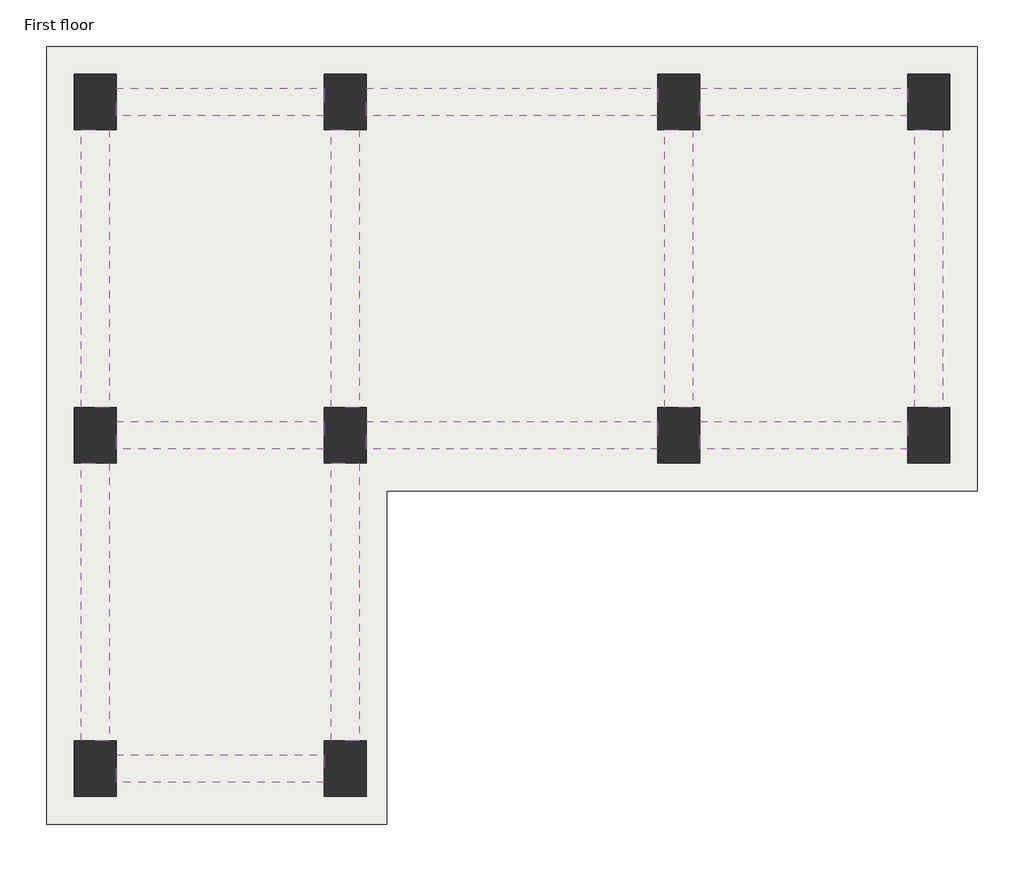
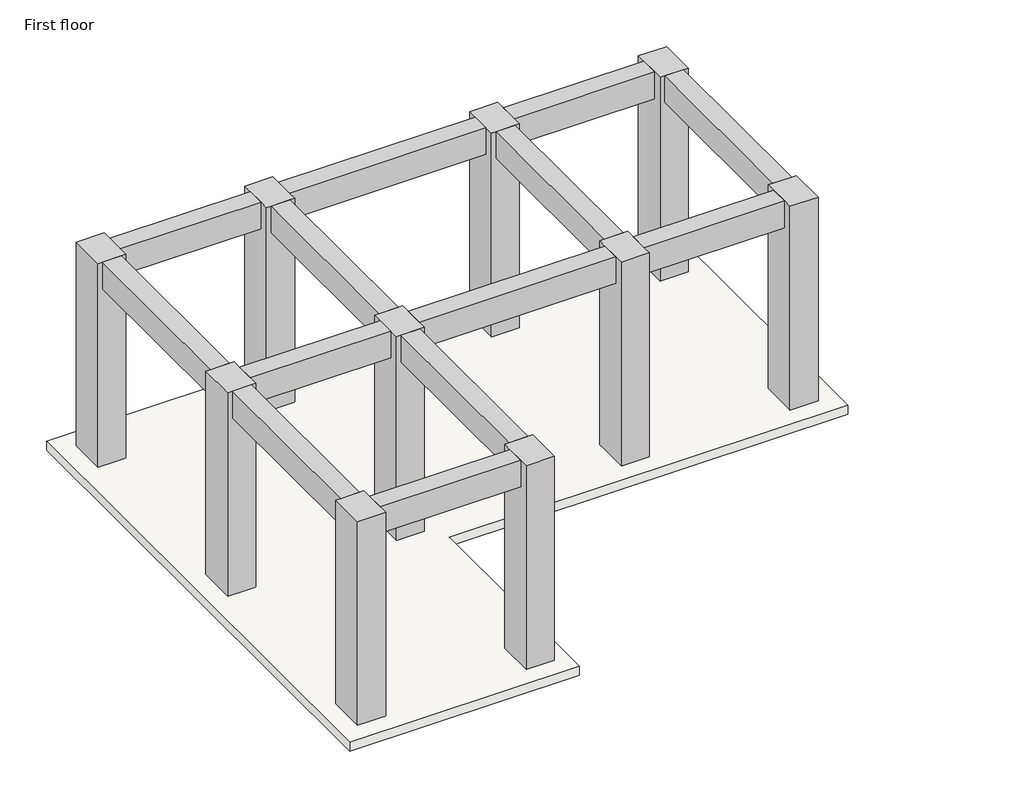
# One storey: 13 beams, 10 columns, 1 slab.
"""IFC4 building model written with IfcOpenShell, lengths in millimetres."""

from ifc_helpers import new_model, si_unit, frame, origin, place, context, project, spatial, polyline, outline, extrude, faceted_brep, element, save

model = new_model("IFC4")

# Units and contexts
model_context = context("Model", 3, world=origin())
ifc_project = project(units=[si_unit("LENGTHUNIT", "METRE", prefix="MILLI")], contexts=[model_context])

# Site, building, storey
site = spatial("IfcSite", under=ifc_project)
building = spatial("IfcBuilding", under=site)
storey = spatial("IfcBuildingStorey", under=building, Name="First floor", Elevation=6096.0)

# Beams
placement = place(None, origin())
element("IfcBeam", 1, ObjectType="Concrete-Rectangular Beam : 12 x 24", at=placement, inside=storey, context=model_context, shape_type="SweptSolid", body=[
    extrude(outline(polyline([(-23084.018666, 15705.8753347), (-23084.018666, 16010.6753347), (-20798.018666, 16010.6753347), (-20798.018666, 15705.8753347), (-23084.018666, 15705.8753347)])), frame((0.0, 0.0, 9144.0), z_axis=(0.0, 0.0, 1.0), x_axis=(1.0, 0.0, 0.0)), (0.0, 0.0, 1.0), 457.2),
])
element("IfcBeam", 2, ObjectType="Concrete-Rectangular Beam : 12 x 24", at=placement, inside=storey, context=model_context, shape_type="SweptSolid", body=[
    extrude(outline(polyline([(-20340.818666, 15705.8753347), (-20340.818666, 16010.6753347), (-17140.418666, 16010.6753347), (-17140.418666, 15705.8753347), (-20340.818666, 15705.8753347)])), frame((0.0, 0.0, 9144.0), z_axis=(0.0, 0.0, 1.0), x_axis=(1.0, 0.0, 0.0)), (0.0, 0.0, 1.0), 457.2),
])
element("IfcBeam", 3, ObjectType="Concrete-Rectangular Beam : 12 x 24", at=placement, inside=storey, context=model_context, shape_type="SweptSolid", body=[
    extrude(outline(polyline([(-16683.218666, 15705.8753347), (-16683.218666, 16010.6753347), (-14397.218666, 16010.6753347), (-14397.218666, 15705.8753347), (-16683.218666, 15705.8753347)])), frame((0.0, 0.0, 9144.0), z_axis=(0.0, 0.0, 1.0), x_axis=(1.0, 0.0, 0.0)), (0.0, 0.0, 1.0), 457.2),
])
element("IfcBeam", 4, ObjectType="Concrete-Rectangular Beam : 12 x 24", at=placement, inside=storey, context=model_context, shape_type="SweptSolid", body=[
    extrude(outline(polyline([(-14321.018666, 15553.4753347), (-14016.218666, 15553.4753347), (-14016.218666, 12505.4753347), (-14321.018666, 12505.4753347), (-14321.018666, 15553.4753347)])), frame((0.0, 0.0, 9144.0), z_axis=(0.0, 0.0, 1.0), x_axis=(1.0, 0.0, 0.0)), (0.0, 0.0, 1.0), 457.2),
])
element("IfcBeam", 5, ObjectType="Concrete-Rectangular Beam : 12 x 24", at=placement, inside=storey, context=model_context, shape_type="SweptSolid", body=[
    extrude(outline(polyline([(-16683.218666, 12048.2753347), (-16683.218666, 12353.0753347), (-14397.218666, 12353.0753347), (-14397.218666, 12048.2753347), (-16683.218666, 12048.2753347)])), frame((0.0, 0.0, 9144.0), z_axis=(0.0, 0.0, 1.0), x_axis=(1.0, 0.0, 0.0)), (0.0, 0.0, 1.0), 457.2),
])
element("IfcBeam", 6, ObjectType="Concrete-Rectangular Beam : 12 x 24", at=placement, inside=storey, context=model_context, shape_type="SweptSolid", body=[
    extrude(outline(polyline([(-20340.818666, 12048.2753347), (-20340.818666, 12353.0753347), (-17140.418666, 12353.0753347), (-17140.418666, 12048.2753347), (-20340.818666, 12048.2753347)])), frame((0.0, 0.0, 9144.0), z_axis=(0.0, 0.0, 1.0), x_axis=(1.0, 0.0, 0.0)), (0.0, 0.0, 1.0), 457.2),
])
element("IfcBeam", 7, ObjectType="Concrete-Rectangular Beam : 12 x 24", at=placement, inside=storey, context=model_context, shape_type="SweptSolid", body=[
    extrude(outline(polyline([(-20721.818666, 11895.8753347), (-20417.018666, 11895.8753347), (-20417.018666, 8847.8753347), (-20721.818666, 8847.8753347), (-20721.818666, 11895.8753347)])), frame((0.0, 0.0, 9144.0), z_axis=(0.0, 0.0, 1.0), x_axis=(1.0, 0.0, 0.0)), (0.0, 0.0, 1.0), 457.2),
])
element("IfcBeam", 8, ObjectType="Concrete-Rectangular Beam : 12 x 24", at=placement, inside=storey, context=model_context, shape_type="SweptSolid", body=[
    extrude(outline(polyline([(-23084.018666, 8390.6753347), (-23084.018666, 8695.4753347), (-20798.018666, 8695.4753347), (-20798.018666, 8390.6753347), (-23084.018666, 8390.6753347)])), frame((0.0, 0.0, 9144.0), z_axis=(0.0, 0.0, 1.0), x_axis=(1.0, 0.0, 0.0)), (0.0, 0.0, 1.0), 457.2),
])
element("IfcBeam", 9, ObjectType="Concrete-Rectangular Beam : 12 x 24", at=placement, inside=storey, context=model_context, shape_type="SweptSolid", body=[
    extrude(outline(polyline([(-23465.018666, 11895.8753347), (-23160.218666, 11895.8753347), (-23160.218666, 8847.8753347), (-23465.018666, 8847.8753347), (-23465.018666, 11895.8753347)])), frame((0.0, 0.0, 9144.0), z_axis=(0.0, 0.0, 1.0), x_axis=(1.0, 0.0, 0.0)), (0.0, 0.0, 1.0), 457.2),
])
element("IfcBeam", 10, ObjectType="Concrete-Rectangular Beam : 12 x 24", at=placement, inside=storey, context=model_context, shape_type="SweptSolid", body=[
    extrude(outline(polyline([(-23465.018666, 15553.4753347), (-23160.218666, 15553.4753347), (-23160.218666, 12505.4753347), (-23465.018666, 12505.4753347), (-23465.018666, 15553.4753347)])), frame((0.0, 0.0, 9144.0), z_axis=(0.0, 0.0, 1.0), x_axis=(1.0, 0.0, 0.0)), (0.0, 0.0, 1.0), 457.2),
])
element("IfcBeam", 11, ObjectType="Concrete-Rectangular Beam : 12 x 24", at=placement, inside=storey, context=model_context, shape_type="SweptSolid", body=[
    extrude(outline(polyline([(-20721.818666, 15553.4753347), (-20417.018666, 15553.4753347), (-20417.018666, 12505.4753347), (-20721.818666, 12505.4753347), (-20721.818666, 15553.4753347)])), frame((0.0, 0.0, 9144.0), z_axis=(0.0, 0.0, 1.0), x_axis=(1.0, 0.0, 0.0)), (0.0, 0.0, 1.0), 457.2),
])
element("IfcBeam", 12, ObjectType="Concrete-Rectangular Beam : 12 x 24", at=placement, inside=storey, context=model_context, shape_type="SweptSolid", body=[
    extrude(outline(polyline([(-23084.018666, 12048.2753347), (-23084.018666, 12353.0753347), (-20798.018666, 12353.0753347), (-20798.018666, 12048.2753347), (-23084.018666, 12048.2753347)])), frame((0.0, 0.0, 9144.0), z_axis=(0.0, 0.0, 1.0), x_axis=(1.0, 0.0, 0.0)), (0.0, 0.0, 1.0), 457.2),
])
element("IfcBeam", 13, ObjectType="Concrete-Rectangular Beam : 12 x 24", at=placement, inside=storey, context=model_context, shape_type="SweptSolid", body=[
    extrude(outline(polyline([(-17064.218666, 15553.4753347), (-16759.418666, 15553.4753347), (-16759.418666, 12505.4753347), (-17064.218666, 12505.4753347), (-17064.218666, 15553.4753347)])), frame((0.0, 0.0, 9144.0), z_axis=(0.0, 0.0, 1.0), x_axis=(1.0, 0.0, 0.0)), (0.0, 0.0, 1.0), 457.2),
])

# Columns
element("IfcColumn", 14, ObjectType="Concrete-Rectangular-Column : 18 x 24", at=placement, inside=storey, context=model_context, shape_type="Brep", body=[
    faceted_brep([(-23084.018666, 16163.0753347, 6096.0), (-23084.018666, 15553.4753347, 6096.0), (-23541.218666, 15553.4753347, 6096.0), (-23541.218666, 16163.0753347, 6096.0), (-23084.018666, 16163.0753347, 9601.2), (-23084.018666, 16010.6753347, 9601.2), (-23084.018666, 15705.8753347, 9601.2), (-23084.018666, 15553.4753347, 9601.2), (-23160.218666, 15553.4753347, 9601.2), (-23465.018666, 15553.4753347, 9601.2), (-23541.218666, 15553.4753347, 9601.2), (-23541.218666, 16163.0753347, 9601.2)], [[[0, 1, 2, 3]], [[1, 0, 4, 5, 6, 7]], [[2, 1, 7, 8, 9, 10]], [[3, 2, 10, 11]], [[0, 3, 11, 4]], [[7, 6, 5, 4, 11, 10, 9, 8]]]),
])
element("IfcColumn", 15, ObjectType="Concrete-Rectangular-Column : 18 x 24", at=placement, inside=storey, context=model_context, shape_type="Brep", body=[
    faceted_brep([(-20340.818666, 16163.0753347, 6096.0), (-20340.818666, 15553.4753347, 6096.0), (-20798.018666, 15553.4753347, 6096.0), (-20798.018666, 16163.0753347, 6096.0), (-20340.818666, 16163.0753347, 9601.2), (-20340.818666, 16010.6753347, 9601.2), (-20340.818666, 15705.8753347, 9601.2), (-20340.818666, 15553.4753347, 9601.2), (-20417.018666, 15553.4753347, 9601.2), (-20721.818666, 15553.4753347, 9601.2), (-20798.018666, 15553.4753347, 9601.2), (-20798.018666, 15705.8753347, 9601.2), (-20798.018666, 16010.6753347, 9601.2), (-20798.018666, 16163.0753347, 9601.2)], [[[0, 1, 2, 3]], [[1, 0, 4, 5, 6, 7]], [[2, 1, 7, 8, 9, 10]], [[3, 2, 10, 11, 12, 13]], [[0, 3, 13, 4]], [[7, 6, 5, 4, 13, 12, 11, 10, 9, 8]]]),
])
element("IfcColumn", 16, ObjectType="Concrete-Rectangular-Column : 18 x 24", at=placement, inside=storey, context=model_context, shape_type="Brep", body=[
    faceted_brep([(-16683.218666, 16163.0753347, 6096.0), (-16683.218666, 15553.4753347, 6096.0), (-17140.418666, 15553.4753347, 6096.0), (-17140.418666, 16163.0753347, 6096.0), (-16683.218666, 16163.0753347, 9601.2), (-16683.218666, 16010.6753347, 9601.2), (-16683.218666, 15705.8753347, 9601.2), (-16683.218666, 15553.4753347, 9601.2), (-16759.418666, 15553.4753347, 9601.2), (-17064.218666, 15553.4753347, 9601.2), (-17140.418666, 15553.4753347, 9601.2), (-17140.418666, 15705.8753347, 9601.2), (-17140.418666, 16010.6753347, 9601.2), (-17140.418666, 16163.0753347, 9601.2)], [[[0, 1, 2, 3]], [[1, 0, 4, 5, 6, 7]], [[2, 1, 7, 8, 9, 10]], [[3, 2, 10, 11, 12, 13]], [[0, 3, 13, 4]], [[7, 6, 5, 4, 13, 12, 11, 10, 9, 8]]]),
])
element("IfcColumn", 17, ObjectType="Concrete-Rectangular-Column : 18 x 24", at=placement, inside=storey, context=model_context, shape_type="Brep", body=[
    faceted_brep([(-13940.018666, 16163.0753347, 6096.0), (-13940.018666, 15553.4753347, 6096.0), (-14397.218666, 15553.4753347, 6096.0), (-14397.218666, 16163.0753347, 6096.0), (-13940.018666, 16163.0753347, 9601.2), (-13940.018666, 15553.4753347, 9601.2), (-14016.218666, 15553.4753347, 9601.2), (-14321.018666, 15553.4753347, 9601.2), (-14397.218666, 15553.4753347, 9601.2), (-14397.218666, 15705.8753347, 9601.2), (-14397.218666, 16010.6753347, 9601.2), (-14397.218666, 16163.0753347, 9601.2)], [[[0, 1, 2, 3]], [[1, 0, 4, 5]], [[2, 1, 5, 6, 7, 8]], [[3, 2, 8, 9, 10, 11]], [[0, 3, 11, 4]], [[5, 4, 11, 10, 9, 8, 7, 6]]]),
])
element("IfcColumn", 18, ObjectType="Concrete-Rectangular-Column : 18 x 24", at=placement, inside=storey, context=model_context, shape_type="Brep", body=[
    faceted_brep([(-23084.018666, 12505.4753347, 6096.0), (-23084.018666, 11895.8753347, 6096.0), (-23541.218666, 11895.8753347, 6096.0), (-23541.218666, 12505.4753347, 6096.0), (-23084.018666, 12505.4753347, 9601.2), (-23084.018666, 12353.0753347, 9601.2), (-23084.018666, 12048.2753347, 9601.2), (-23084.018666, 11895.8753347, 9601.2), (-23160.218666, 11895.8753347, 9601.2), (-23465.018666, 11895.8753347, 9601.2), (-23541.218666, 11895.8753347, 9601.2), (-23541.218666, 12505.4753347, 9601.2), (-23465.018666, 12505.4753347, 9601.2), (-23160.218666, 12505.4753347, 9601.2)], [[[0, 1, 2, 3]], [[1, 0, 4, 5, 6, 7]], [[2, 1, 7, 8, 9, 10]], [[3, 2, 10, 11]], [[0, 3, 11, 12, 13, 4]], [[7, 6, 5, 4, 13, 12, 11, 10, 9, 8]]]),
])
element("IfcColumn", 19, ObjectType="Concrete-Rectangular-Column : 18 x 24", at=placement, inside=storey, context=model_context, shape_type="Brep", body=[
    faceted_brep([(-20340.818666, 12505.4753347, 6096.0), (-20340.818666, 11895.8753347, 6096.0), (-20798.018666, 11895.8753347, 6096.0), (-20798.018666, 12505.4753347, 6096.0), (-20340.818666, 12505.4753347, 9601.2), (-20340.818666, 12353.0753347, 9601.2), (-20340.818666, 12048.2753347, 9601.2), (-20340.818666, 11895.8753347, 9601.2), (-20417.018666, 11895.8753347, 9601.2), (-20721.818666, 11895.8753347, 9601.2), (-20798.018666, 11895.8753347, 9601.2), (-20798.018666, 12048.2753347, 9601.2), (-20798.018666, 12353.0753347, 9601.2), (-20798.018666, 12505.4753347, 9601.2), (-20721.818666, 12505.4753347, 9601.2), (-20417.018666, 12505.4753347, 9601.2)], [[[0, 1, 2, 3]], [[1, 0, 4, 5, 6, 7]], [[2, 1, 7, 8, 9, 10]], [[3, 2, 10, 11, 12, 13]], [[0, 3, 13, 14, 15, 4]], [[7, 6, 5, 4, 15, 14, 13, 12, 11, 10, 9, 8]]]),
])
element("IfcColumn", 20, ObjectType="Concrete-Rectangular-Column : 18 x 24", at=placement, inside=storey, context=model_context, shape_type="Brep", body=[
    faceted_brep([(-16683.218666, 12505.4753347, 6096.0), (-16683.218666, 11895.8753347, 6096.0), (-17140.418666, 11895.8753347, 6096.0), (-17140.418666, 12505.4753347, 6096.0), (-16683.218666, 12505.4753347, 9601.2), (-16683.218666, 12353.0753347, 9601.2), (-16683.218666, 12048.2753347, 9601.2), (-16683.218666, 11895.8753347, 9601.2), (-17140.418666, 11895.8753347, 9601.2), (-17140.418666, 12048.2753347, 9601.2), (-17140.418666, 12353.0753347, 9601.2), (-17140.418666, 12505.4753347, 9601.2), (-17064.218666, 12505.4753347, 9601.2), (-16759.418666, 12505.4753347, 9601.2)], [[[0, 1, 2, 3]], [[1, 0, 4, 5, 6, 7]], [[2, 1, 7, 8]], [[3, 2, 8, 9, 10, 11]], [[0, 3, 11, 12, 13, 4]], [[7, 6, 5, 4, 13, 12, 11, 10, 9, 8]]]),
])
element("IfcColumn", 21, ObjectType="Concrete-Rectangular-Column : 18 x 24", at=placement, inside=storey, context=model_context, shape_type="Brep", body=[
    faceted_brep([(-13940.018666, 12505.4753347, 6096.0), (-13940.018666, 11895.8753347, 6096.0), (-14397.218666, 11895.8753347, 6096.0), (-14397.218666, 12505.4753347, 6096.0), (-13940.018666, 12505.4753347, 9601.2), (-13940.018666, 11895.8753347, 9601.2), (-14397.218666, 11895.8753347, 9601.2), (-14397.218666, 12048.2753347, 9601.2), (-14397.218666, 12353.0753347, 9601.2), (-14397.218666, 12505.4753347, 9601.2), (-14321.018666, 12505.4753347, 9601.2), (-14016.218666, 12505.4753347, 9601.2)], [[[0, 1, 2, 3]], [[1, 0, 4, 5]], [[2, 1, 5, 6]], [[3, 2, 6, 7, 8, 9]], [[0, 3, 9, 10, 11, 4]], [[5, 4, 11, 10, 9, 8, 7, 6]]]),
])
element("IfcColumn", 22, ObjectType="Concrete-Rectangular-Column : 18 x 24", at=placement, inside=storey, context=model_context, shape_type="Brep", body=[
    faceted_brep([(-23084.018666, 8847.8753347, 6096.0), (-23084.018666, 8238.2753347, 6096.0), (-23541.218666, 8238.2753347, 6096.0), (-23541.218666, 8847.8753347, 6096.0), (-23084.018666, 8847.8753347, 9601.2), (-23084.018666, 8695.4753347, 9601.2), (-23084.018666, 8390.6753347, 9601.2), (-23084.018666, 8238.2753347, 9601.2), (-23541.218666, 8238.2753347, 9601.2), (-23541.218666, 8847.8753347, 9601.2), (-23465.018666, 8847.8753347, 9601.2), (-23160.218666, 8847.8753347, 9601.2)], [[[0, 1, 2, 3]], [[1, 0, 4, 5, 6, 7]], [[2, 1, 7, 8]], [[3, 2, 8, 9]], [[0, 3, 9, 10, 11, 4]], [[7, 6, 5, 4, 11, 10, 9, 8]]]),
])
element("IfcColumn", 23, ObjectType="Concrete-Rectangular-Column : 18 x 24", at=placement, inside=storey, context=model_context, shape_type="Brep", body=[
    faceted_brep([(-20340.818666, 8847.8753347, 6096.0), (-20340.818666, 8238.2753347, 6096.0), (-20798.018666, 8238.2753347, 6096.0), (-20798.018666, 8847.8753347, 6096.0), (-20340.818666, 8847.8753347, 9601.2), (-20340.818666, 8238.2753347, 9601.2), (-20798.018666, 8238.2753347, 9601.2), (-20798.018666, 8390.6753347, 9601.2), (-20798.018666, 8695.4753347, 9601.2), (-20798.018666, 8847.8753347, 9601.2), (-20721.818666, 8847.8753347, 9601.2), (-20417.018666, 8847.8753347, 9601.2)], [[[0, 1, 2, 3]], [[1, 0, 4, 5]], [[2, 1, 5, 6]], [[3, 2, 6, 7, 8, 9]], [[0, 3, 9, 10, 11, 4]], [[5, 4, 11, 10, 9, 8, 7, 6]]]),
])

# Slab
element("IfcSlab", 24, ObjectType="6\" Concrete", at=placement, inside=storey, context=model_context, shape_type="SweptSolid", body=[
    extrude(outline(polyline([(-23846.018666, 7933.4753347), (-23846.018666, 16467.8753347), (-13635.218666, 16467.8753347), (-13635.218666, 11591.0753347), (-20112.218666, 11591.0753347), (-20112.218666, 7933.4753347), (-23846.018666, 7933.4753347)])), frame((0.0, 0.0, 5943.6), z_axis=(0.0, 0.0, 1.0), x_axis=(1.0, 0.0, 0.0)), (0.0, 0.0, 1.0), 152.4),
])

save(model, "model.ifc")
